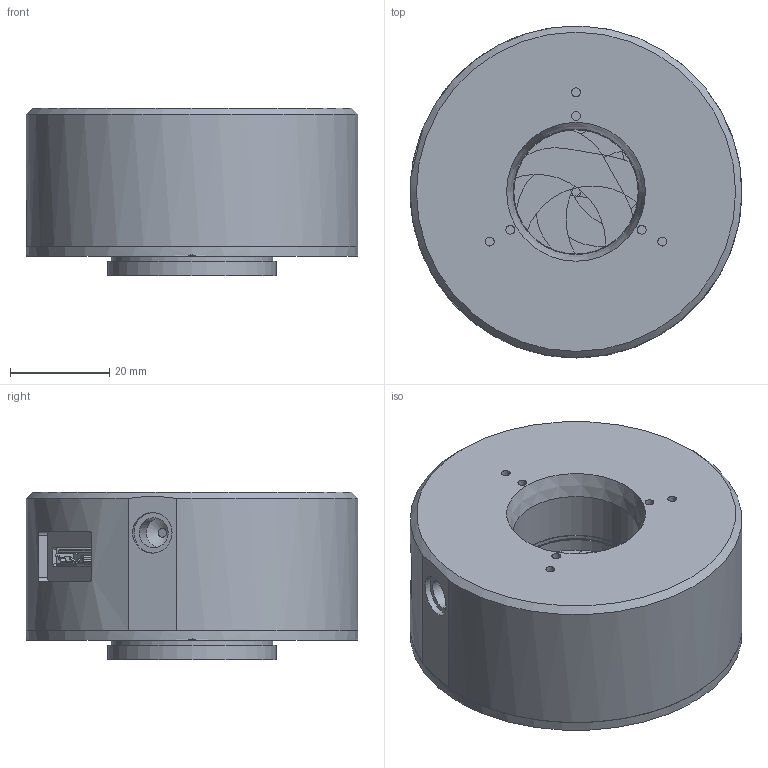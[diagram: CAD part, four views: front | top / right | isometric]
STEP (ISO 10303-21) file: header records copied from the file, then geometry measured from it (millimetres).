
FILE_DESCRIPTION (( 'STEP AP214' ), '1' );
FILE_NAME ('AI25S6T.STEP', '2018-02-12T17:34:24', ( '' ), ( '' ), 'SwSTEP 2.0', 'SolidWorks 2017', '' );
FILE_SCHEMA (( 'AUTOMOTIVE_DESIGN' ));
Length unit declared in the file: inch
Products named in the file (1): AI25S6T
Bounding box: 66.8 x 66.8 x 33.8 mm (x, y, z)
Volume: 53500.5 mm3; surface area: 62166.4 mm2
Topology: 29 solids, 29 shells, 1527 faces, 4188 edges, 2699 vertices
Faces by surface type: cylinder 697, plane 635, cone 163, torus 28, bspline 4
Full cylindrical faces by diameter (mm): 0.61 x2, 1.191 x16, 1.27 x5, 1.295 x4, 1.473 x4, 1.511 x2, 1.575 x5, 1.778 x40, 1.956 x4, 2.032 x5, 2.108 x5, 2.184 x48, 2.286 x19, 2.413 x6, 3.099 x3, 3.734 x4, 4.763 x1, 5.055 x1, 6 x1, 6.35 x4, 8.2 x1, 25 x1, 25.273 x1, 25.4 x2, 25.654 x2, 26.162 x1, 26.822 x1, 27.94 x1, 31.496 x1, 32.055 x1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
Entity records: 67736 total; most frequent: CARTESIAN_POINT 9275, DIRECTION 8154, ORIENTED_EDGE 7402, EDGE_CURVE 3701, AXIS2_PLACEMENT_3D 3072, VERTEX_POINT 2605, EDGE_LOOP 2246, LINE 2010
